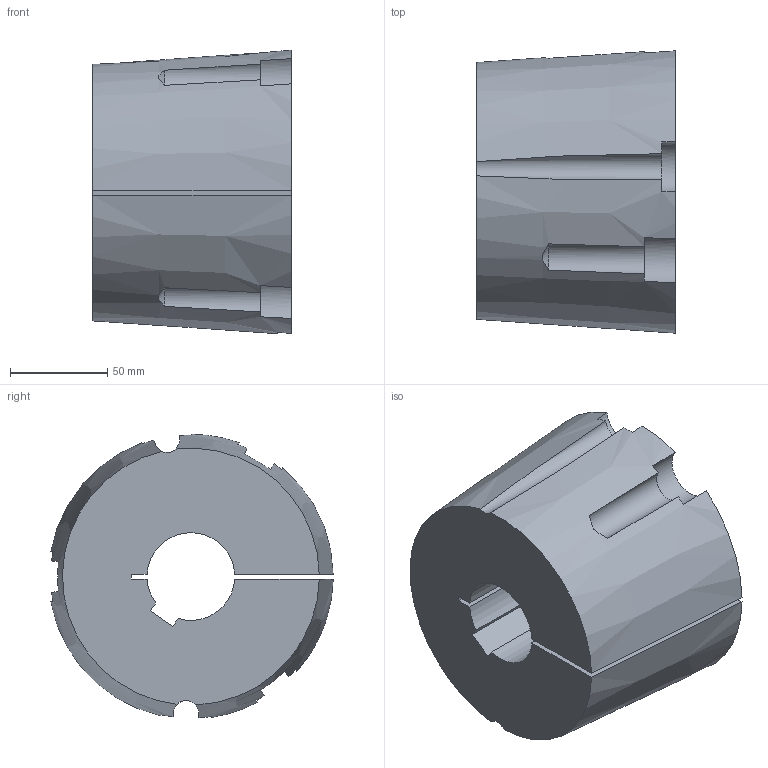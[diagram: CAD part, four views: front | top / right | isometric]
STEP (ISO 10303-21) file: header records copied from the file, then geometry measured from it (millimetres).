
FILE_DESCRIPTION( ( 'STEP AP203' ), '1' );
FILE_NAME( 'D:/export/antriebselemente/spannbuchsen_und_spannsaetze/taper-spannbuchsen_1008_bis_5050/taper-spannbuchsen_62251445Isometric_236.stp', '2018-12-11T11:11:32', ( '' ), ( '' ), ' ', 'PARTsolutions', ' ' );
FILE_SCHEMA( ( 'CONFIG_CONTROL_DESIGN' ) );
Length unit declared in the file: millimetre
Products named in the file (1): _taper-spannbuchsen_62251445
Bounding box: 102 x 144.84 x 145.4 mm (x, y, z)
Volume: 1321116.2 mm3; surface area: 100050.9 mm2
Topology: 1 solids, 1 shells, 34 faces, 96 edges, 64 vertices
Faces by surface type: plane 15, cylinder 13, cone 6
Entity records: 1310 total; most frequent: CARTESIAN_POINT 386, ORIENTED_EDGE 192, DIRECTION 186, EDGE_CURVE 96, AXIS2_PLACEMENT_3D 80, VERTEX_POINT 64, CIRCLE 45, ADVANCED_FACE 34
